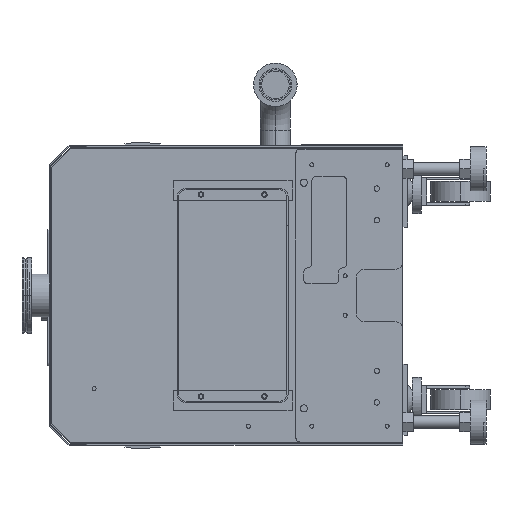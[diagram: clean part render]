
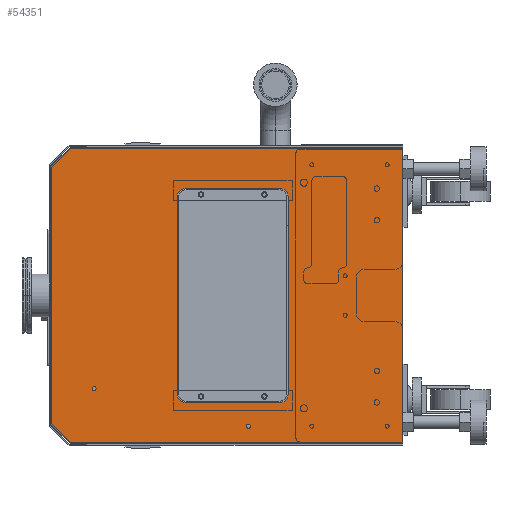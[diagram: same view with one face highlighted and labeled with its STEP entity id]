
A CAD part, left-side view. The second image highlights one B-rep face of the part: STEP entity #54351.
In plain terms, the highlighted planar face has unit normal (-1, 0, 0).
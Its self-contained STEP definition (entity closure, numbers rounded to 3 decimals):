
#52126=DIRECTION('',(0.,0.,-1.));
#52127=VECTOR('',#52126,375.);
#52128=CARTESIAN_POINT('',(-407.,0.,2.5));
#52129=LINE('',#52128,#52127);
#52134=DIRECTION('',(0.,1.,0.));
#52135=VECTOR('',#52134,420.);
#52136=CARTESIAN_POINT('',(-407.,0.,-372.5));
#52137=LINE('',#52136,#52135);
#52172=DIRECTION('',(0.,0.707,-0.707));
#52173=VECTOR('',#52172,35.355);
#52174=CARTESIAN_POINT('',(-407.,420.,2.5));
#52175=LINE('',#52174,#52173);
#52176=DIRECTION('',(0.,-0.707,-0.707));
#52177=VECTOR('',#52176,35.355);
#52178=CARTESIAN_POINT('',(-407.,445.,-347.5));
#52179=LINE('',#52178,#52177);
#52180=CARTESIAN_POINT('',(-407.,390.,-302.5));
#52181=DIRECTION('',(1.,0.,0.));
#52182=DIRECTION('',(0.,0.,-1.));
#52183=AXIS2_PLACEMENT_3D('',#52180,#52181,#52182);
#52185=CARTESIAN_POINT('',(-407.,390.,-302.5));
#52186=DIRECTION('',(1.,0.,0.));
#52187=DIRECTION('',(0.,0.,1.));
#52188=AXIS2_PLACEMENT_3D('',#52185,#52186,#52187);
#52190=DIRECTION('',(0.,0.,1.));
#52191=VECTOR('',#52190,250.);
#52192=CARTESIAN_POINT('',(-407.,285.,-310.));
#52193=LINE('',#52192,#52191);
#52194=CARTESIAN_POINT('',(-407.,275.,-310.));
#52195=DIRECTION('',(1.,0.,0.));
#52196=DIRECTION('',(0.,0.,-1.));
#52197=AXIS2_PLACEMENT_3D('',#52194,#52195,#52196);
#52199=DIRECTION('',(0.,1.,0.));
#52200=VECTOR('',#52199,120.);
#52201=CARTESIAN_POINT('',(-407.,155.,-320.));
#52202=LINE('',#52201,#52200);
#52203=CARTESIAN_POINT('',(-407.,155.,-310.));
#52204=DIRECTION('',(1.,0.,0.));
#52205=DIRECTION('',(0.,-1.,0.));
#52206=AXIS2_PLACEMENT_3D('',#52203,#52204,#52205);
#52208=DIRECTION('',(0.,0.,-1.));
#52209=VECTOR('',#52208,250.);
#52210=CARTESIAN_POINT('',(-407.,145.,-60.));
#52211=LINE('',#52210,#52209);
#52212=CARTESIAN_POINT('',(-407.,155.,-60.));
#52213=DIRECTION('',(1.,0.,0.));
#52214=DIRECTION('',(0.,0.,1.));
#52215=AXIS2_PLACEMENT_3D('',#52212,#52213,#52214);
#52217=DIRECTION('',(0.,-1.,0.));
#52218=VECTOR('',#52217,120.);
#52219=CARTESIAN_POINT('',(-407.,275.,-50.));
#52220=LINE('',#52219,#52218);
#52221=CARTESIAN_POINT('',(-407.,275.,-60.));
#52222=DIRECTION('',(1.,0.,0.));
#52223=DIRECTION('',(0.,1.,0.));
#52224=AXIS2_PLACEMENT_3D('',#52221,#52222,#52223);
#52226=CARTESIAN_POINT('',(-407.,195.,-350.));
#52227=DIRECTION('',(1.,0.,0.));
#52228=DIRECTION('',(0.,0.,-1.));
#52229=AXIS2_PLACEMENT_3D('',#52226,#52227,#52228);
#52231=CARTESIAN_POINT('',(-407.,195.,-350.));
#52232=DIRECTION('',(1.,0.,0.));
#52233=DIRECTION('',(0.,0.,1.));
#52234=AXIS2_PLACEMENT_3D('',#52231,#52232,#52233);
#52236=DIRECTION('',(0.,0.,1.));
#52237=VECTOR('',#52236,325.);
#52238=CARTESIAN_POINT('',(-407.,445.,-347.5));
#52239=LINE('',#52238,#52237);
#52268=DIRECTION('',(0.,-1.,0.));
#52269=VECTOR('',#52268,420.);
#52270=CARTESIAN_POINT('',(-407.,420.,2.5));
#52271=LINE('',#52270,#52269);
#53458=CARTESIAN_POINT('',(-407.,155.,-50.));
#53459=CARTESIAN_POINT('',(-407.,145.,-60.));
#53460=VERTEX_POINT('',#53458);
#53461=VERTEX_POINT('',#53459);
#53478=CARTESIAN_POINT('',(-407.,285.,-60.));
#53480=VERTEX_POINT('',#53478);
#53508=CARTESIAN_POINT('',(-407.,285.,-310.));
#53509=VERTEX_POINT('',#53508);
#53528=CARTESIAN_POINT('',(-407.,390.,-300.));
#53530=VERTEX_POINT('',#53528);
#53536=CARTESIAN_POINT('',(-407.,390.,-305.));
#53537=VERTEX_POINT('',#53536);
#53538=CARTESIAN_POINT('',(-407.,145.,-310.));
#53539=VERTEX_POINT('',#53538);
#53566=CARTESIAN_POINT('',(-407.,420.,2.5));
#53567=CARTESIAN_POINT('',(-407.,0.,2.5));
#53568=VERTEX_POINT('',#53566);
#53569=VERTEX_POINT('',#53567);
#53580=CARTESIAN_POINT('',(-407.,195.,-347.5));
#53582=VERTEX_POINT('',#53580);
#53588=CARTESIAN_POINT('',(-407.,195.,-352.5));
#53589=VERTEX_POINT('',#53588);
#53601=CARTESIAN_POINT('',(-407.,0.,-372.5));
#53603=VERTEX_POINT('',#53601);
#53624=CARTESIAN_POINT('',(-407.,275.,-320.));
#53625=VERTEX_POINT('',#53624);
#53668=CARTESIAN_POINT('',(-407.,420.,-372.5));
#53669=VERTEX_POINT('',#53668);
#53690=CARTESIAN_POINT('',(-407.,155.,-320.));
#53691=VERTEX_POINT('',#53690);
#53734=CARTESIAN_POINT('',(-407.,275.,-50.));
#53735=VERTEX_POINT('',#53734);
#53818=CARTESIAN_POINT('',(-407.,445.,-347.5));
#53819=VERTEX_POINT('',#53818);
#53828=CARTESIAN_POINT('',(-407.,445.,-22.5));
#53829=VERTEX_POINT('',#53828);
#54304=CARTESIAN_POINT('',(-407.,445.,-372.5));
#54305=DIRECTION('',(1.,0.,0.));
#54306=DIRECTION('',(0.,0.,-1.));
#54307=AXIS2_PLACEMENT_3D('',#54304,#54305,#54306);
#54308=PLANE('',#54307);
#54310=ORIENTED_EDGE('',*,*,#54309,.T.);
#54312=ORIENTED_EDGE('',*,*,#54311,.F.);
#54314=ORIENTED_EDGE('',*,*,#54313,.T.);
#54315=ORIENTED_EDGE('',*,*,#54249,.T.);
#54316=ORIENTED_EDGE('',*,*,#54270,.T.);
#54318=ORIENTED_EDGE('',*,*,#54317,.F.);
#54319=EDGE_LOOP('',(#54310,#54312,#54314,#54315,#54316,#54318));
#54320=FACE_OUTER_BOUND('',#54319,.F.);
#54322=ORIENTED_EDGE('',*,*,#54321,.F.);
#54324=ORIENTED_EDGE('',*,*,#54323,.F.);
#54325=EDGE_LOOP('',(#54322,#54324));
#54326=FACE_BOUND('',#54325,.F.);
#54328=ORIENTED_EDGE('',*,*,#54327,.F.);
#54330=ORIENTED_EDGE('',*,*,#54329,.F.);
#54332=ORIENTED_EDGE('',*,*,#54331,.F.);
#54334=ORIENTED_EDGE('',*,*,#54333,.F.);
#54336=ORIENTED_EDGE('',*,*,#54335,.F.);
#54338=ORIENTED_EDGE('',*,*,#54337,.F.);
#54340=ORIENTED_EDGE('',*,*,#54339,.F.);
#54342=ORIENTED_EDGE('',*,*,#54341,.F.);
#54343=EDGE_LOOP('',(#54328,#54330,#54332,#54334,#54336,#54338,#54340,#54342));
#54344=FACE_BOUND('',#54343,.F.);
#54346=ORIENTED_EDGE('',*,*,#54345,.F.);
#54348=ORIENTED_EDGE('',*,*,#54347,.F.);
#54349=EDGE_LOOP('',(#54346,#54348));
#54350=FACE_BOUND('',#54349,.F.);
#52184=CIRCLE('',#52183,2.5);
#52189=CIRCLE('',#52188,2.5);
#52198=CIRCLE('',#52197,10.);
#52207=CIRCLE('',#52206,10.);
#52216=CIRCLE('',#52215,10.);
#52225=CIRCLE('',#52224,10.);
#52230=CIRCLE('',#52229,2.5);
#52235=CIRCLE('',#52234,2.5);
#54249=EDGE_CURVE('',#53569,#53603,#52129,.T.);
#54270=EDGE_CURVE('',#53603,#53669,#52137,.T.);
#54309=EDGE_CURVE('',#53819,#53829,#52239,.T.);
#54311=EDGE_CURVE('',#53568,#53829,#52175,.T.);
#54313=EDGE_CURVE('',#53568,#53569,#52271,.T.);
#54317=EDGE_CURVE('',#53819,#53669,#52179,.T.);
#54321=EDGE_CURVE('',#53537,#53530,#52184,.T.);
#54323=EDGE_CURVE('',#53530,#53537,#52189,.T.);
#54327=EDGE_CURVE('',#53509,#53480,#52193,.T.);
#54329=EDGE_CURVE('',#53625,#53509,#52198,.T.);
#54331=EDGE_CURVE('',#53691,#53625,#52202,.T.);
#54333=EDGE_CURVE('',#53539,#53691,#52207,.T.);
#54335=EDGE_CURVE('',#53461,#53539,#52211,.T.);
#54337=EDGE_CURVE('',#53460,#53461,#52216,.T.);
#54339=EDGE_CURVE('',#53735,#53460,#52220,.T.);
#54341=EDGE_CURVE('',#53480,#53735,#52225,.T.);
#54345=EDGE_CURVE('',#53589,#53582,#52230,.T.);
#54347=EDGE_CURVE('',#53582,#53589,#52235,.T.);
#54351=ADVANCED_FACE('',(#54320,#54326,#54344,#54350),#54308,.F.);
